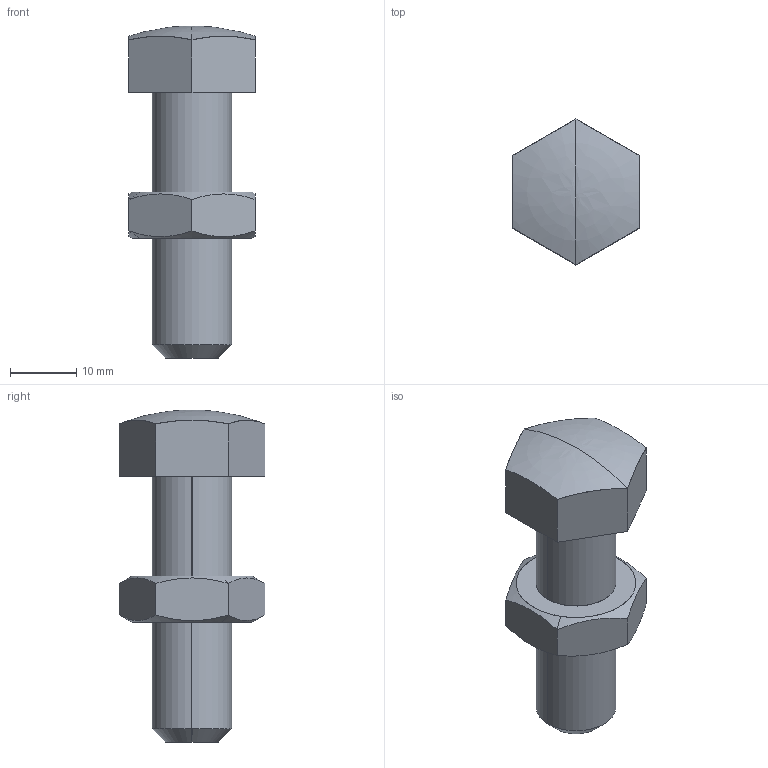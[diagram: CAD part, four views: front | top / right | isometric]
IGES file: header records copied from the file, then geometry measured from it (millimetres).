
Start section: SolidWorks IGES file using analytic representation for surfaces
Global section: file name: X:\11_SW2020-Inv2020\00_全2021-11新製品まで\b\BJ732-12050\bj732-12050.IGS; native system: SolidWorks 2020; preprocessor: SolidWorks 2020; author: ImaoCorp; date: 211025.102622; units: millimetre
Bounding box: 19 x 21.94 x 50 mm (x, y, z)
Surface area: 3703.4 mm2 (no closed solid volume)
Topology: 0 solids, 0 shells, 28 faces, 534 edges, 533 vertices
Faces by surface type: bspline 16, revolution 12
